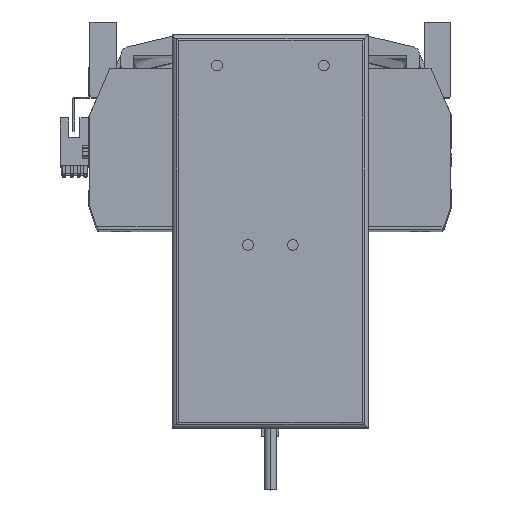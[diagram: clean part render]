
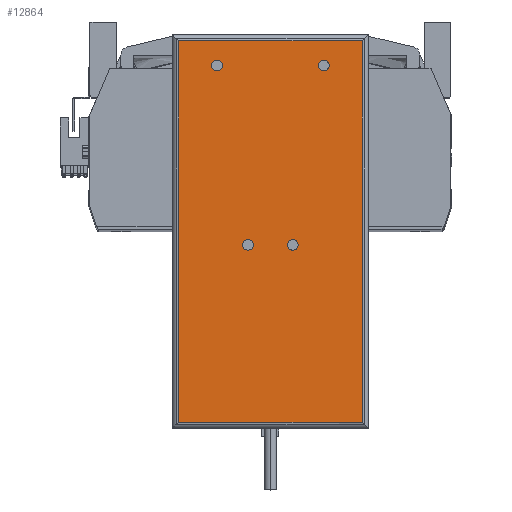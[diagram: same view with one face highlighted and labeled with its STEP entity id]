
A CAD part, top view. The second image highlights one B-rep face of the part: STEP entity #12864.
In plain terms, the highlighted planar face has unit normal (0, 0, 1) as drawn and (0, 0, -1) by its records, which use the part's own axes.
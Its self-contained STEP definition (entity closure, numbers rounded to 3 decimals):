
#180 = VERTEX_POINT ( 'NONE', #35907 ) ;
#280 = CIRCLE ( 'NONE', #18029, 2.5 ) ;
#348 = EDGE_LOOP ( 'NONE', ( #40862, #10709, #32084, #47890 ) ) ;
#1306 = ORIENTED_EDGE ( 'NONE', *, *, #10314, .F. ) ;
#1384 = CARTESIAN_POINT ( 'NONE',  ( -43., 89.25, 0. ) ) ;
#1564 = VERTEX_POINT ( 'NONE', #47683 ) ;
#1925 = VERTEX_POINT ( 'NONE', #12606 ) ;
#2056 = EDGE_CURVE ( 'NONE', #1925, #8865, #48432, .T. ) ;
#2097 = DIRECTION ( 'NONE',  ( 0., 0., -1. ) ) ;
#2240 = EDGE_LOOP ( 'NONE', ( #7467, #40114 ) ) ;
#3297 = EDGE_LOOP ( 'NONE', ( #1306, #24136 ) ) ;
#4126 = EDGE_CURVE ( 'NONE', #10399, #34212, #16112, .T. ) ;
#4599 = ORIENTED_EDGE ( 'NONE', *, *, #4126, .F. ) ;
#4674 = CARTESIAN_POINT ( 'NONE',  ( -22.5, 77.75, 0. ) ) ;
#4694 = EDGE_CURVE ( 'NONE', #16476, #180, #9097, .T. ) ;
#4965 = CARTESIAN_POINT ( 'NONE',  ( -25., 77.75, 0. ) ) ;
#5149 = CARTESIAN_POINT ( 'NONE',  ( 43., -92.25, 0. ) ) ;
#5609 = AXIS2_PLACEMENT_3D ( 'NONE', #45424, #23067, #26936 ) ;
#7467 = ORIENTED_EDGE ( 'NONE', *, *, #42252, .F. ) ;
#8182 = CARTESIAN_POINT ( 'NONE',  ( 25., 77.75, 0. ) ) ;
#8815 = EDGE_CURVE ( 'NONE', #29594, #32522, #15549, .T. ) ;
#8865 = VERTEX_POINT ( 'NONE', #1384 ) ;
#9097 = CIRCLE ( 'NONE', #32926, 2.5 ) ;
#9377 = EDGE_CURVE ( 'NONE', #34212, #10399, #30102, .T. ) ;
#10314 = EDGE_CURVE ( 'NONE', #180, #16476, #280, .T. ) ;
#10399 = VERTEX_POINT ( 'NONE', #18135 ) ;
#10709 = ORIENTED_EDGE ( 'NONE', *, *, #14152, .T. ) ;
#10808 = CIRCLE ( 'NONE', #5609, 2.5 ) ;
#10888 = VECTOR ( 'NONE', #19165, 1000. ) ;
#10918 = VERTEX_POINT ( 'NONE', #15001 ) ;
#12275 = DIRECTION ( 'NONE',  ( -1., 0., 0. ) ) ;
#12606 = CARTESIAN_POINT ( 'NONE',  ( -43., -89.25, 0. ) ) ;
#12855 = AXIS2_PLACEMENT_3D ( 'NONE', #13063, #16803, #13857 ) ;
#12859 = CIRCLE ( 'NONE', #47297, 2.5 ) ;
#12864 = ADVANCED_FACE ( 'NONE', ( #45587, #14663, #35693, #17545, #21056 ), #23952, .F. ) ;
#13063 = CARTESIAN_POINT ( 'NONE',  ( -46., -92.25, 0. ) ) ;
#13613 = DIRECTION ( 'NONE',  ( -1., 0., 0. ) ) ;
#13631 = DIRECTION ( 'NONE',  ( 0., 0., -1. ) ) ;
#13662 = ORIENTED_EDGE ( 'NONE', *, *, #9377, .F. ) ;
#13857 = DIRECTION ( 'NONE',  ( 1., 0., 0. ) ) ;
#13892 = EDGE_CURVE ( 'NONE', #43695, #1564, #12859, .T. ) ;
#14152 = EDGE_CURVE ( 'NONE', #32522, #1925, #30918, .T. ) ;
#14629 = CARTESIAN_POINT ( 'NONE',  ( 10.5, -6.25, 0. ) ) ;
#14663 = FACE_BOUND ( 'NONE', #37043, .T. ) ;
#15001 = CARTESIAN_POINT ( 'NONE',  ( -13., -6.25, 0. ) ) ;
#15549 = LINE ( 'NONE', #5149, #45900 ) ;
#16112 = CIRCLE ( 'NONE', #29123, 2.5 ) ;
#16476 = VERTEX_POINT ( 'NONE', #4674 ) ;
#16534 = DIRECTION ( 'NONE',  ( 0., -1., 0. ) ) ;
#16803 = DIRECTION ( 'NONE',  ( 0., 0., 1. ) ) ;
#17343 = CARTESIAN_POINT ( 'NONE',  ( 25., 77.75, 0. ) ) ;
#17348 = AXIS2_PLACEMENT_3D ( 'NONE', #45937, #23592, #27320 ) ;
#17545 = FACE_BOUND ( 'NONE', #3297, .T. ) ;
#17936 = CARTESIAN_POINT ( 'NONE',  ( -46., -89.25, 0. ) ) ;
#18029 = AXIS2_PLACEMENT_3D ( 'NONE', #21091, #13631, #35805 ) ;
#18135 = CARTESIAN_POINT ( 'NONE',  ( 8., -6.25, 0. ) ) ;
#18339 = DIRECTION ( 'NONE',  ( -1., 0., 0. ) ) ;
#18999 = CARTESIAN_POINT ( 'NONE',  ( -46., 89.25, 0. ) ) ;
#19165 = DIRECTION ( 'NONE',  ( 1., 0., 0. ) ) ;
#20682 = CARTESIAN_POINT ( 'NONE',  ( -8., -6.25, 0. ) ) ;
#20865 = DIRECTION ( 'NONE',  ( 0., 1., 0. ) ) ;
#21056 = FACE_BOUND ( 'NONE', #2240, .T. ) ;
#21077 = DIRECTION ( 'NONE',  ( 0., 0., -1. ) ) ;
#21091 = CARTESIAN_POINT ( 'NONE',  ( -25., 77.75, 0. ) ) ;
#21797 = DIRECTION ( 'NONE',  ( -1., 0., 0. ) ) ;
#23067 = DIRECTION ( 'NONE',  ( 0., 0., -1. ) ) ;
#23592 = DIRECTION ( 'NONE',  ( 0., 0., -1. ) ) ;
#23952 = PLANE ( 'NONE',  #12855 ) ;
#24136 = ORIENTED_EDGE ( 'NONE', *, *, #4694, .F. ) ;
#24399 = CIRCLE ( 'NONE', #26021, 2.5 ) ;
#26021 = AXIS2_PLACEMENT_3D ( 'NONE', #17343, #21077, #13613 ) ;
#26241 = CARTESIAN_POINT ( 'NONE',  ( 43., 89.25, 0. ) ) ;
#26439 = AXIS2_PLACEMENT_3D ( 'NONE', #46587, #2097, #32218 ) ;
#26552 = DIRECTION ( 'NONE',  ( -1., 0., 0. ) ) ;
#26936 = DIRECTION ( 'NONE',  ( -1., 0., 0. ) ) ;
#27320 = DIRECTION ( 'NONE',  ( -1., 0., 0. ) ) ;
#28389 = CARTESIAN_POINT ( 'NONE',  ( -43., -92.25, 0. ) ) ;
#28944 = LINE ( 'NONE', #18999, #10888 ) ;
#29123 = AXIS2_PLACEMENT_3D ( 'NONE', #14629, #30114, #18339 ) ;
#29594 = VERTEX_POINT ( 'NONE', #26241 ) ;
#29797 = CIRCLE ( 'NONE', #17348, 2.5 ) ;
#30102 = CIRCLE ( 'NONE', #26439, 2.5 ) ;
#30114 = DIRECTION ( 'NONE',  ( 0., 0., -1. ) ) ;
#30918 = LINE ( 'NONE', #17936, #40819 ) ;
#32084 = ORIENTED_EDGE ( 'NONE', *, *, #2056, .T. ) ;
#32218 = DIRECTION ( 'NONE',  ( -1., 0., 0. ) ) ;
#32522 = VERTEX_POINT ( 'NONE', #46112 ) ;
#32599 = EDGE_CURVE ( 'NONE', #44842, #10918, #29797, .T. ) ;
#32926 = AXIS2_PLACEMENT_3D ( 'NONE', #4965, #38039, #12275 ) ;
#34212 = VERTEX_POINT ( 'NONE', #37826 ) ;
#34436 = CARTESIAN_POINT ( 'NONE',  ( 27.5, 77.75, 0. ) ) ;
#35693 = FACE_BOUND ( 'NONE', #41868, .T. ) ;
#35805 = DIRECTION ( 'NONE',  ( -1., 0., 0. ) ) ;
#35907 = CARTESIAN_POINT ( 'NONE',  ( -27.5, 77.75, 0. ) ) ;
#36898 = ORIENTED_EDGE ( 'NONE', *, *, #45720, .F. ) ;
#37043 = EDGE_LOOP ( 'NONE', ( #36898, #47769 ) ) ;
#37826 = CARTESIAN_POINT ( 'NONE',  ( 13., -6.25, 0. ) ) ;
#38039 = DIRECTION ( 'NONE',  ( 0., 0., -1. ) ) ;
#40114 = ORIENTED_EDGE ( 'NONE', *, *, #13892, .F. ) ;
#40819 = VECTOR ( 'NONE', #21797, 1000. ) ;
#40862 = ORIENTED_EDGE ( 'NONE', *, *, #8815, .T. ) ;
#41868 = EDGE_LOOP ( 'NONE', ( #4599, #13662 ) ) ;
#42252 = EDGE_CURVE ( 'NONE', #1564, #43695, #24399, .T. ) ;
#43695 = VERTEX_POINT ( 'NONE', #34436 ) ;
#43881 = EDGE_CURVE ( 'NONE', #8865, #29594, #28944, .T. ) ;
#44842 = VERTEX_POINT ( 'NONE', #20682 ) ;
#45030 = DIRECTION ( 'NONE',  ( 0., 0., -1. ) ) ;
#45424 = CARTESIAN_POINT ( 'NONE',  ( -10.5, -6.25, 0. ) ) ;
#45587 = FACE_OUTER_BOUND ( 'NONE', #348, .T. ) ;
#45720 = EDGE_CURVE ( 'NONE', #10918, #44842, #10808, .T. ) ;
#45900 = VECTOR ( 'NONE', #16534, 1000. ) ;
#45937 = CARTESIAN_POINT ( 'NONE',  ( -10.5, -6.25, 0. ) ) ;
#46095 = VECTOR ( 'NONE', #20865, 1000. ) ;
#46112 = CARTESIAN_POINT ( 'NONE',  ( 43., -89.25, 0. ) ) ;
#46587 = CARTESIAN_POINT ( 'NONE',  ( 10.5, -6.25, 0. ) ) ;
#47297 = AXIS2_PLACEMENT_3D ( 'NONE', #8182, #45030, #26552 ) ;
#47683 = CARTESIAN_POINT ( 'NONE',  ( 22.5, 77.75, 0. ) ) ;
#47769 = ORIENTED_EDGE ( 'NONE', *, *, #32599, .F. ) ;
#47890 = ORIENTED_EDGE ( 'NONE', *, *, #43881, .T. ) ;
#48432 = LINE ( 'NONE', #28389, #46095 ) ;
